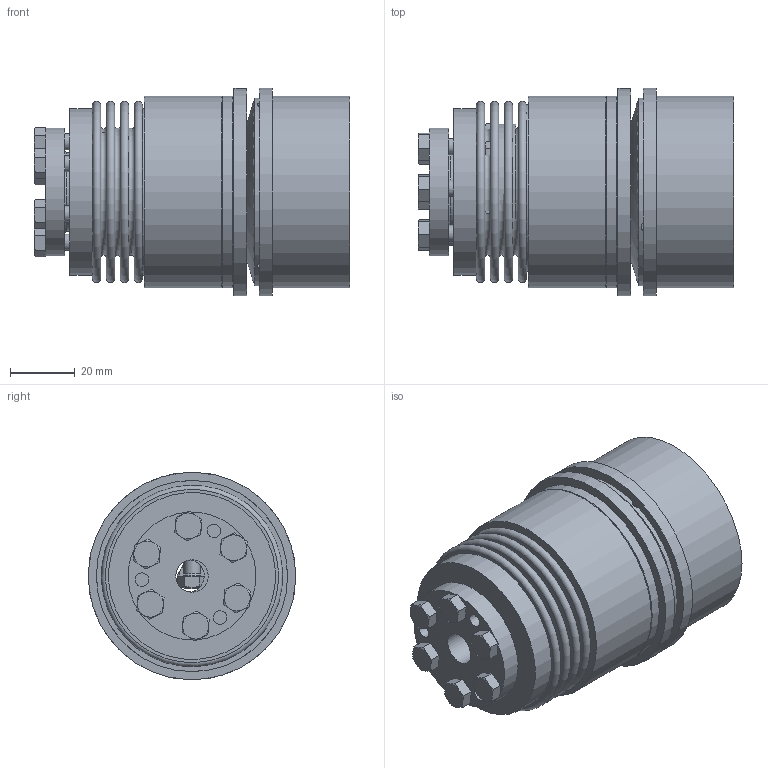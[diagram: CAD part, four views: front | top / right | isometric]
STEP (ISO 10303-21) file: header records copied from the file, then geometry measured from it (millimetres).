
FILE_DESCRIPTION( ( 'Unknown' ), '1' );
FILE_NAME( 'C:/Dokumente und Einstellungen/SKarpstein/Desktop/Korrigierte 3D Modelle/KBK-B-II/KBK-BAI-30-85.stp', 'Unknown', ( 'Unknown' ), ( 'Unknown' ), 'XStep 1.0', 'Unknown', ' ' );
FILE_SCHEMA( ( 'automotive_design' ) );
Length unit declared in the file: millimetre
Products named in the file (12): Assem1; Assem2; Hex Screw GradeC_DIN_ISO 4018 - M5 x 20-NN_1; KB30_Standard_1; BA30_Standard_1; Stellring 30; Druckring 30; KBK L-I-30 Grundkörper; Konusbuchse KBK L-I-30; din_en_24017_m5x16; BK30_Standard_1; Flansch BI30
Bounding box: 97.45 x 64 x 64 mm (x, y, z)
Volume: 273308.6 mm3; surface area: 169372.4 mm2
Topology: 38 solids, 38 shells, 727 faces, 1523 edges, 964 vertices
Faces by surface type: plane 324, cone 191, cylinder 165, torus 47
Full cylindrical faces by diameter (mm): 3.242 x6, 4.134 x18, 4.2 x27, 5 x20, 5.5 x30, 6.88 x7, 10 x3, 12 x4, 23.9 x2, 24.4 x5, 25 x4, 34 x2, 37 x5, 38 x4, 39.5 x5, 40 x2, 46.5 x4, 47.3 x4, 51.5 x3, 52 x2, 58 x2, 59 x4, 64 x2
Entity records: 5527 total; most frequent: CARTESIAN_POINT 1196, DIRECTION 916, ORIENTED_EDGE 596, AXIS2_PLACEMENT_3D 434, EDGE_LOOP 402, EDGE_CURVE 298, FACE_OUTER_BOUND 282, VERTEX_POINT 250
